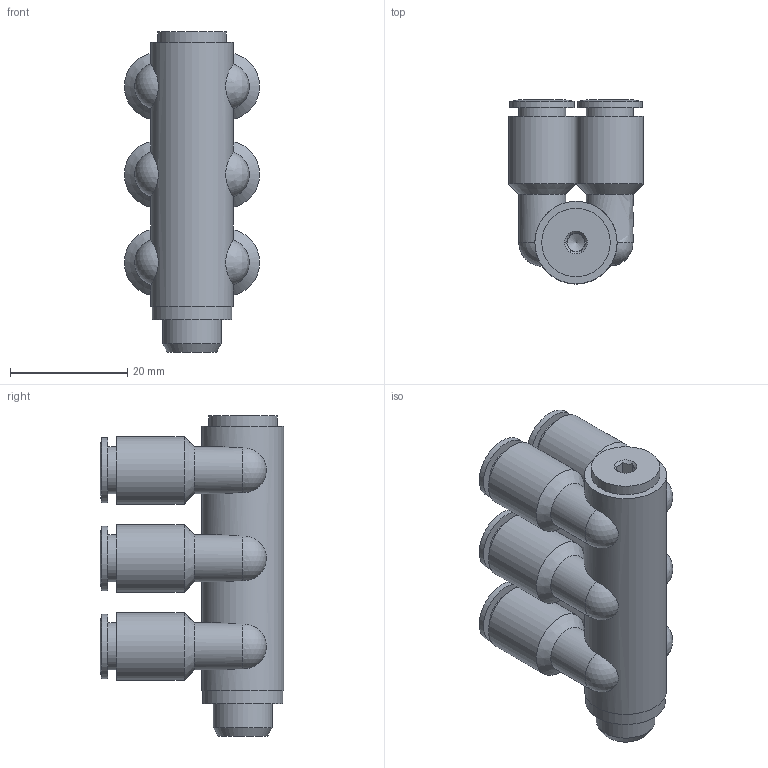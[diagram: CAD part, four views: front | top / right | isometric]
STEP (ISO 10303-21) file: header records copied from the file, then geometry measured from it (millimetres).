
FILE_DESCRIPTION((''),'2;1');
FILE_NAME('C:\Documents and Settings\rivolro1\Documenti\copia di Raccordi\PLASTICA\T34BXXXX\T34B0618.stp','2007-11-03T09:08:34',('Rivolro1'),(''),'Autodesk Inventor 2008','Autodesk Inventor 2008','');
FILE_SCHEMA(('AUTOMOTIVE_DESIGN { 1 0 10303 214 1 1 1 1 }'));
Length unit declared in the file: millimetre
Products named in the file (1): T34B0618
Bounding box: 23 x 31.3 x 54.5 mm (x, y, z)
Volume: 14957.4 mm3; surface area: 10278.9 mm2
Topology: 1 solids, 1 shells, 121 faces, 232 edges, 140 vertices
Faces by surface type: bspline 60, plane 26, cylinder 25, cone 7, sphere 3
Full cylindrical faces by diameter (mm): 4.2 x3, 8 x6, 10 x1, 11 x3, 11.5 x3, 11.667 x1, 13.6 x1, 14 x1
Entity records: 4139 total; most frequent: CARTESIAN_POINT 2085, DIRECTION 356, ORIENTED_EDGE 322, EDGE_LOOP 204, AXIS2_PLACEMENT_3D 163, EDGE_CURVE 161, FACE_OUTER_BOUND 121, ADVANCED_FACE 121
